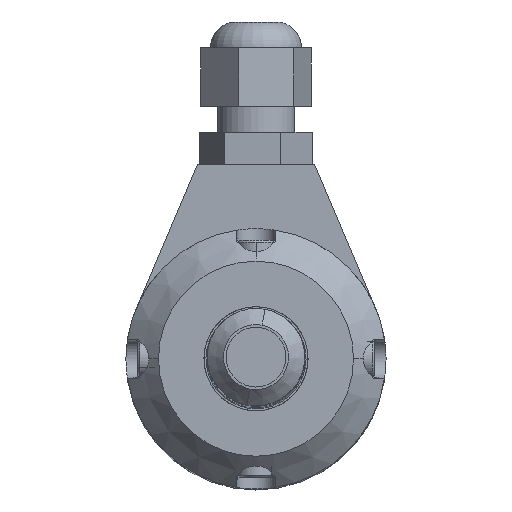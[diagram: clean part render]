
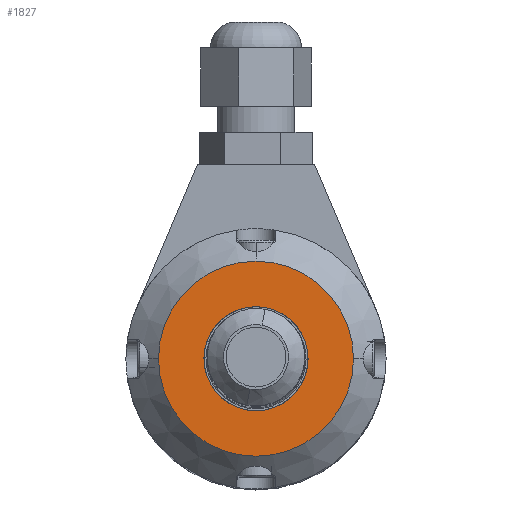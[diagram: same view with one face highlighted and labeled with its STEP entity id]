
A CAD part, top view. The second image highlights one B-rep face of the part: STEP entity #1827.
In plain terms, the highlighted planar face has unit normal (0, 0, 1) as drawn and (-1, 0, 0) by its records, which use the part's own axes.
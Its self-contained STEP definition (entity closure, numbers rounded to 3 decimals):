
#143 = CARTESIAN_POINT ( 'NONE',  ( 0., 0., 15. ) ) ;
#472 = EDGE_CURVE ( 'NONE', #19597, #12797, #16045, .T. ) ;
#1250 = CARTESIAN_POINT ( 'NONE',  ( 0., 0., -8. ) ) ;
#1313 = CARTESIAN_POINT ( 'NONE',  ( 0., 0., 0. ) ) ;
#1399 = ORIENTED_EDGE ( 'NONE', *, *, #472, .T. ) ;
#1827 = ADVANCED_FACE ( 'NONE', ( #7208, #12852 ), #13681, .F. ) ;
#2191 = CARTESIAN_POINT ( 'NONE',  ( 0., 0., 0. ) ) ;
#2869 = DIRECTION ( 'NONE',  ( 0., 0., -1. ) ) ;
#4314 = CARTESIAN_POINT ( 'NONE',  ( 0., 20., 0. ) ) ;
#5552 = EDGE_CURVE ( 'NONE', #14251, #12195, #9394, .T. ) ;
#5826 = DIRECTION ( 'NONE',  ( 0., 0., -1. ) ) ;
#5862 = AXIS2_PLACEMENT_3D ( 'NONE', #4314, #15230, #5901 ) ;
#5901 = DIRECTION ( 'NONE',  ( 0., 0., -1. ) ) ;
#6343 = DIRECTION ( 'NONE',  ( -1., 0., 0. ) ) ;
#6659 = DIRECTION ( 'NONE',  ( -1., 0., 0. ) ) ;
#6771 = EDGE_LOOP ( 'NONE', ( #18848, #15154 ) ) ;
#7208 = FACE_OUTER_BOUND ( 'NONE', #15681, .T. ) ;
#7392 = CARTESIAN_POINT ( 'NONE',  ( 0., 0., -15. ) ) ;
#8866 = AXIS2_PLACEMENT_3D ( 'NONE', #15690, #6343, #17245 ) ;
#9394 = CIRCLE ( 'NONE', #8866, 8. ) ;
#10728 = AXIS2_PLACEMENT_3D ( 'NONE', #16001, #6659, #17533 ) ;
#10756 = DIRECTION ( 'NONE',  ( -1., 0., 0. ) ) ;
#11486 = AXIS2_PLACEMENT_3D ( 'NONE', #1313, #12226, #2869 ) ;
#11594 = EDGE_CURVE ( 'NONE', #12797, #19597, #19278, .T. ) ;
#12195 = VERTEX_POINT ( 'NONE', #12533 ) ;
#12226 = DIRECTION ( 'NONE',  ( -1., 0., 0. ) ) ;
#12289 = CIRCLE ( 'NONE', #10728, 8. ) ;
#12392 = EDGE_CURVE ( 'NONE', #12195, #14251, #12289, .T. ) ;
#12533 = CARTESIAN_POINT ( 'NONE',  ( 0., 0., 8. ) ) ;
#12797 = VERTEX_POINT ( 'NONE', #143 ) ;
#12852 = FACE_BOUND ( 'NONE', #6771, .T. ) ;
#13681 = PLANE ( 'NONE',  #5862 ) ;
#14251 = VERTEX_POINT ( 'NONE', #1250 ) ;
#15154 = ORIENTED_EDGE ( 'NONE', *, *, #5552, .F. ) ;
#15230 = DIRECTION ( 'NONE',  ( 1., 0., 0. ) ) ;
#15681 = EDGE_LOOP ( 'NONE', ( #1399, #17927 ) ) ;
#15690 = CARTESIAN_POINT ( 'NONE',  ( 0., 0., 0. ) ) ;
#16001 = CARTESIAN_POINT ( 'NONE',  ( 0., 0., 0. ) ) ;
#16045 = CIRCLE ( 'NONE', #19704, 15. ) ;
#17245 = DIRECTION ( 'NONE',  ( 0., 0., 1. ) ) ;
#17533 = DIRECTION ( 'NONE',  ( 0., 0., 1. ) ) ;
#17927 = ORIENTED_EDGE ( 'NONE', *, *, #11594, .T. ) ;
#18848 = ORIENTED_EDGE ( 'NONE', *, *, #12392, .F. ) ;
#19278 = CIRCLE ( 'NONE', #11486, 15. ) ;
#19597 = VERTEX_POINT ( 'NONE', #7392 ) ;
#19704 = AXIS2_PLACEMENT_3D ( 'NONE', #2191, #10756, #5826 ) ;
